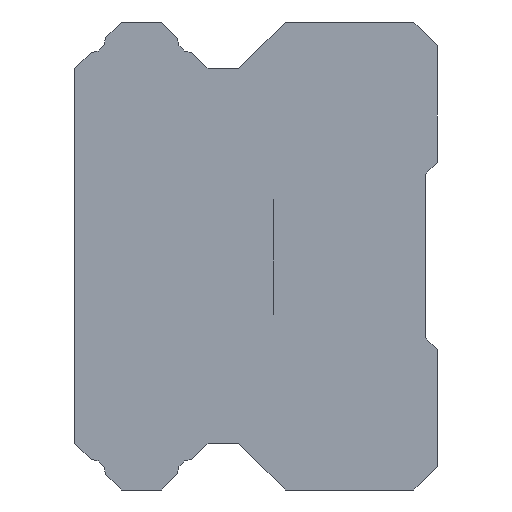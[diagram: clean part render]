
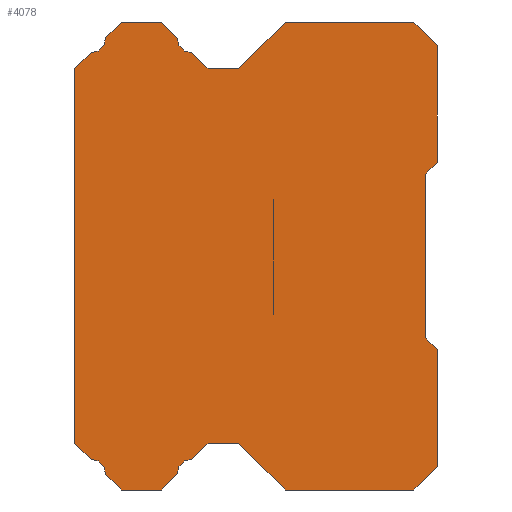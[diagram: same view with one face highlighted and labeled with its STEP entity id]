
A CAD part, left-side view. The second image highlights one B-rep face of the part: STEP entity #4078.
In plain terms, the highlighted planar face has unit normal (-1, 0, 0).
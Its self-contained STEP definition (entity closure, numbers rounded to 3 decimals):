
#1747 = VERTEX_POINT('',#1748);
#1748 = CARTESIAN_POINT('',(-20.,15.5,8.005));
#1756 = VERTEX_POINT('',#1757);
#1757 = CARTESIAN_POINT('',(-20.,15.5,-8.005));
#1763 = EDGE_CURVE('',#1747,#1756,#1764,.T.);
#1764 = LINE('',#1765,#1766);
#1765 = CARTESIAN_POINT('',(-20.,15.5,12.5));
#1766 = VECTOR('',#1767,1.);
#1767 = DIRECTION('',(0.,0.,-1.));
#4060 = EDGE_CURVE('',#4061,#1747,#4063,.T.);
#4061 = VERTEX_POINT('',#4062);
#4062 = CARTESIAN_POINT('',(-20.,14.835,8.67));
#4063 = LINE('',#4064,#4065);
#4064 = CARTESIAN_POINT('',(-20.,2.96,20.545));
#4065 = VECTOR('',#4066,1.);
#4066 = DIRECTION('',(0.,0.707,-0.707
    ));
#4078 = ADVANCED_FACE('',(#4079),#4293,.F.);
#4079 = FACE_BOUND('',#4080,.F.);
#4080 = EDGE_LOOP('',(#4081,#4091,#4099,#4107,#4115,#4123,#4132,#4140,
    #4148,#4156,#4165,#4171,#4172,#4173,#4182,#4190,#4198,#4206,#4215,
    #4223,#4231,#4239,#4247,#4255,#4263,#4271,#4279,#4287));
#4081 = ORIENTED_EDGE('',*,*,#4082,.F.);
#4082 = EDGE_CURVE('',#4083,#4085,#4087,.T.);
#4083 = VERTEX_POINT('',#4084);
#4084 = CARTESIAN_POINT('',(-20.,1.,-10.));
#4085 = VERTEX_POINT('',#4086);
#4086 = CARTESIAN_POINT('',(-20.,0.,-9.));
#4087 = LINE('',#4088,#4089);
#4088 = CARTESIAN_POINT('',(-20.,-12.5,3.5));
#4089 = VECTOR('',#4090,1.);
#4090 = DIRECTION('',(0.,-0.707,0.707)
  );
#4091 = ORIENTED_EDGE('',*,*,#4092,.F.);
#4092 = EDGE_CURVE('',#4093,#4083,#4095,.T.);
#4093 = VERTEX_POINT('',#4094);
#4094 = CARTESIAN_POINT('',(-20.,6.5,-10.));
#4095 = LINE('',#4096,#4097);
#4096 = CARTESIAN_POINT('',(-20.,-6.625,-10.));
#4097 = VECTOR('',#4098,1.);
#4098 = DIRECTION('',(0.,-1.,0.));
#4099 = ORIENTED_EDGE('',*,*,#4100,.F.);
#4100 = EDGE_CURVE('',#4101,#4093,#4103,.T.);
#4101 = VERTEX_POINT('',#4102);
#4102 = CARTESIAN_POINT('',(-20.,8.495,-8.005));
#4103 = LINE('',#4104,#4105);
#4104 = CARTESIAN_POINT('',(-20.,9.874,-6.626));
#4105 = VECTOR('',#4106,1.);
#4106 = DIRECTION('',(0.,-0.707,
    -0.707));
#4107 = ORIENTED_EDGE('',*,*,#4108,.F.);
#4108 = EDGE_CURVE('',#4109,#4101,#4111,.T.);
#4109 = VERTEX_POINT('',#4110);
#4110 = CARTESIAN_POINT('',(-20.,9.8,-8.005));
#4111 = LINE('',#4112,#4113);
#4112 = CARTESIAN_POINT('',(-20.,-3.926,-8.005));
#4113 = VECTOR('',#4114,1.);
#4114 = DIRECTION('',(0.,-1.,0.));
#4115 = ORIENTED_EDGE('',*,*,#4116,.F.);
#4116 = EDGE_CURVE('',#4117,#4109,#4119,.T.);
#4117 = VERTEX_POINT('',#4118);
#4118 = CARTESIAN_POINT('',(-20.,10.465,-8.67));
#4119 = LINE('',#4120,#4121);
#4120 = CARTESIAN_POINT('',(-20.,-4.985,6.78));
#4121 = VECTOR('',#4122,1.);
#4122 = DIRECTION('',(0.,-0.707,0.707)
  );
#4123 = ORIENTED_EDGE('',*,*,#4124,.F.);
#4124 = EDGE_CURVE('',#4125,#4117,#4127,.T.);
#4125 = VERTEX_POINT('',#4126);
#4126 = CARTESIAN_POINT('',(-20.,11.13,-9.335));
#4127 = CIRCLE('',#4128,0.654);
#4128 = AXIS2_PLACEMENT_3D('',#4129,#4130,#4131);
#4129 = CARTESIAN_POINT('',(-20.,10.476,-9.324));
#4130 = DIRECTION('',(1.,-0.,0.));
#4131 = DIRECTION('',(0.,0.,-1.));
#4132 = ORIENTED_EDGE('',*,*,#4133,.F.);
#4133 = EDGE_CURVE('',#4134,#4125,#4136,.T.);
#4134 = VERTEX_POINT('',#4135);
#4135 = CARTESIAN_POINT('',(-20.,11.795,-10.));
#4136 = LINE('',#4137,#4138);
#4137 = CARTESIAN_POINT('',(-20.,-4.32,6.115));
#4138 = VECTOR('',#4139,1.);
#4139 = DIRECTION('',(0.,-0.707,0.707)
  );
#4140 = ORIENTED_EDGE('',*,*,#4141,.F.);
#4141 = EDGE_CURVE('',#4142,#4134,#4144,.T.);
#4142 = VERTEX_POINT('',#4143);
#4143 = CARTESIAN_POINT('',(-20.,13.505,-10.));
#4144 = LINE('',#4145,#4146);
#4145 = CARTESIAN_POINT('',(-20.,-2.175,-10.));
#4146 = VECTOR('',#4147,1.);
#4147 = DIRECTION('',(0.,-1.,0.));
#4148 = ORIENTED_EDGE('',*,*,#4149,.F.);
#4149 = EDGE_CURVE('',#4150,#4142,#4152,.T.);
#4150 = VERTEX_POINT('',#4151);
#4151 = CARTESIAN_POINT('',(-20.,14.17,-9.335));
#4152 = LINE('',#4153,#4154);
#4153 = CARTESIAN_POINT('',(-20.,14.795,-8.71));
#4154 = VECTOR('',#4155,1.);
#4155 = DIRECTION('',(0.,-0.707,
    -0.707));
#4156 = ORIENTED_EDGE('',*,*,#4157,.F.);
#4157 = EDGE_CURVE('',#4158,#4150,#4160,.T.);
#4158 = VERTEX_POINT('',#4159);
#4159 = CARTESIAN_POINT('',(-20.,14.835,-8.67));
#4160 = CIRCLE('',#4161,0.654);
#4161 = AXIS2_PLACEMENT_3D('',#4162,#4163,#4164);
#4162 = CARTESIAN_POINT('',(-20.,14.824,-9.324));
#4163 = DIRECTION('',(1.,-0.,0.));
#4164 = DIRECTION('',(0.,0.,-1.));
#4165 = ORIENTED_EDGE('',*,*,#4166,.F.);
#4166 = EDGE_CURVE('',#1756,#4158,#4167,.T.);
#4167 = LINE('',#4168,#4169);
#4168 = CARTESIAN_POINT('',(-20.,15.46,-8.045));
#4169 = VECTOR('',#4170,1.);
#4170 = DIRECTION('',(0.,-0.707,
    -0.707));
#4171 = ORIENTED_EDGE('',*,*,#1763,.F.);
#4172 = ORIENTED_EDGE('',*,*,#4060,.F.);
#4173 = ORIENTED_EDGE('',*,*,#4174,.F.);
#4174 = EDGE_CURVE('',#4175,#4061,#4177,.T.);
#4175 = VERTEX_POINT('',#4176);
#4176 = CARTESIAN_POINT('',(-20.,14.17,9.335));
#4177 = CIRCLE('',#4178,0.654);
#4178 = AXIS2_PLACEMENT_3D('',#4179,#4180,#4181);
#4179 = CARTESIAN_POINT('',(-20.,14.824,9.324));
#4180 = DIRECTION('',(1.,-0.,0.));
#4181 = DIRECTION('',(0.,0.,-1.));
#4182 = ORIENTED_EDGE('',*,*,#4183,.F.);
#4183 = EDGE_CURVE('',#4184,#4175,#4186,.T.);
#4184 = VERTEX_POINT('',#4185);
#4185 = CARTESIAN_POINT('',(-20.,13.505,10.));
#4186 = LINE('',#4187,#4188);
#4187 = CARTESIAN_POINT('',(-20.,2.295,21.21));
#4188 = VECTOR('',#4189,1.);
#4189 = DIRECTION('',(0.,0.707,-0.707
    ));
#4190 = ORIENTED_EDGE('',*,*,#4191,.F.);
#4191 = EDGE_CURVE('',#4192,#4184,#4194,.T.);
#4192 = VERTEX_POINT('',#4193);
#4193 = CARTESIAN_POINT('',(-20.,11.795,10.));
#4194 = LINE('',#4195,#4196);
#4195 = CARTESIAN_POINT('',(-20.,-2.175,10.));
#4196 = VECTOR('',#4197,1.);
#4197 = DIRECTION('',(0.,1.,0.));
#4198 = ORIENTED_EDGE('',*,*,#4199,.F.);
#4199 = EDGE_CURVE('',#4200,#4192,#4202,.T.);
#4200 = VERTEX_POINT('',#4201);
#4201 = CARTESIAN_POINT('',(-20.,11.13,9.335));
#4202 = LINE('',#4203,#4204);
#4203 = CARTESIAN_POINT('',(-20.,8.18,6.385));
#4204 = VECTOR('',#4205,1.);
#4205 = DIRECTION('',(0.,0.707,0.707)
  );
#4206 = ORIENTED_EDGE('',*,*,#4207,.F.);
#4207 = EDGE_CURVE('',#4208,#4200,#4210,.T.);
#4208 = VERTEX_POINT('',#4209);
#4209 = CARTESIAN_POINT('',(-20.,10.465,8.67));
#4210 = CIRCLE('',#4211,0.654);
#4211 = AXIS2_PLACEMENT_3D('',#4212,#4213,#4214);
#4212 = CARTESIAN_POINT('',(-20.,10.476,9.324));
#4213 = DIRECTION('',(1.,-0.,0.));
#4214 = DIRECTION('',(0.,0.,-1.));
#4215 = ORIENTED_EDGE('',*,*,#4216,.F.);
#4216 = EDGE_CURVE('',#4217,#4208,#4219,.T.);
#4217 = VERTEX_POINT('',#4218);
#4218 = CARTESIAN_POINT('',(-20.,9.8,8.005));
#4219 = LINE('',#4220,#4221);
#4220 = CARTESIAN_POINT('',(-20.,7.515,5.72));
#4221 = VECTOR('',#4222,1.);
#4222 = DIRECTION('',(0.,0.707,0.707)
  );
#4223 = ORIENTED_EDGE('',*,*,#4224,.F.);
#4224 = EDGE_CURVE('',#4225,#4217,#4227,.T.);
#4225 = VERTEX_POINT('',#4226);
#4226 = CARTESIAN_POINT('',(-20.,8.495,8.005));
#4227 = LINE('',#4228,#4229);
#4228 = CARTESIAN_POINT('',(-20.,-3.926,8.005));
#4229 = VECTOR('',#4230,1.);
#4230 = DIRECTION('',(0.,1.,0.));
#4231 = ORIENTED_EDGE('',*,*,#4232,.F.);
#4232 = EDGE_CURVE('',#4233,#4225,#4235,.T.);
#4233 = VERTEX_POINT('',#4234);
#4234 = CARTESIAN_POINT('',(-20.,6.5,10.));
#4235 = LINE('',#4236,#4237);
#4236 = CARTESIAN_POINT('',(-20.,-2.626,19.126));
#4237 = VECTOR('',#4238,1.);
#4238 = DIRECTION('',(0.,0.707,-0.707
    ));
#4239 = ORIENTED_EDGE('',*,*,#4240,.F.);
#4240 = EDGE_CURVE('',#4241,#4233,#4243,.T.);
#4241 = VERTEX_POINT('',#4242);
#4242 = CARTESIAN_POINT('',(-20.,1.,10.));
#4243 = LINE('',#4244,#4245);
#4244 = CARTESIAN_POINT('',(-20.,-6.625,10.));
#4245 = VECTOR('',#4246,1.);
#4246 = DIRECTION('',(0.,1.,0.));
#4247 = ORIENTED_EDGE('',*,*,#4248,.F.);
#4248 = EDGE_CURVE('',#4249,#4241,#4251,.T.);
#4249 = VERTEX_POINT('',#4250);
#4250 = CARTESIAN_POINT('',(-20.,0.,9.));
#4251 = LINE('',#4252,#4253);
#4252 = CARTESIAN_POINT('',(-20.,0.,9.));
#4253 = VECTOR('',#4254,1.);
#4254 = DIRECTION('',(0.,0.707,0.707)
  );
#4255 = ORIENTED_EDGE('',*,*,#4256,.F.);
#4256 = EDGE_CURVE('',#4257,#4249,#4259,.T.);
#4257 = VERTEX_POINT('',#4258);
#4258 = CARTESIAN_POINT('',(-20.,0.,4.));
#4259 = LINE('',#4260,#4261);
#4260 = CARTESIAN_POINT('',(-20.,0.,15.75));
#4261 = VECTOR('',#4262,1.);
#4262 = DIRECTION('',(0.,0.,1.));
#4263 = ORIENTED_EDGE('',*,*,#4264,.F.);
#4264 = EDGE_CURVE('',#4265,#4257,#4267,.T.);
#4265 = VERTEX_POINT('',#4266);
#4266 = CARTESIAN_POINT('',(-20.,0.5,3.5));
#4267 = LINE('',#4268,#4269);
#4268 = CARTESIAN_POINT('',(-20.,-9.375,13.375));
#4269 = VECTOR('',#4270,1.);
#4270 = DIRECTION('',(0.,-0.707,0.707)
  );
#4271 = ORIENTED_EDGE('',*,*,#4272,.F.);
#4272 = EDGE_CURVE('',#4273,#4265,#4275,.T.);
#4273 = VERTEX_POINT('',#4274);
#4274 = CARTESIAN_POINT('',(-20.,0.5,-3.5));
#4275 = LINE('',#4276,#4277);
#4276 = CARTESIAN_POINT('',(-20.,0.5,12.5));
#4277 = VECTOR('',#4278,1.);
#4278 = DIRECTION('',(0.,0.,1.));
#4279 = ORIENTED_EDGE('',*,*,#4280,.F.);
#4280 = EDGE_CURVE('',#4281,#4273,#4283,.T.);
#4281 = VERTEX_POINT('',#4282);
#4282 = CARTESIAN_POINT('',(-20.,0.,-4.));
#4283 = LINE('',#4284,#4285);
#4284 = CARTESIAN_POINT('',(-20.,3.125,-0.875));
#4285 = VECTOR('',#4286,1.);
#4286 = DIRECTION('',(0.,0.707,0.707)
  );
#4287 = ORIENTED_EDGE('',*,*,#4288,.F.);
#4288 = EDGE_CURVE('',#4085,#4281,#4289,.T.);
#4289 = LINE('',#4290,#4291);
#4290 = CARTESIAN_POINT('',(-20.,0.,9.25));
#4291 = VECTOR('',#4292,1.);
#4292 = DIRECTION('',(0.,0.,1.));
#4293 = PLANE('',#4294);
#4294 = AXIS2_PLACEMENT_3D('',#4295,#4296,#4297);
#4295 = CARTESIAN_POINT('',(-20.,-17.,25.));
#4296 = DIRECTION('',(1.,0.,0.));
#4297 = DIRECTION('',(0.,0.,-1.));
